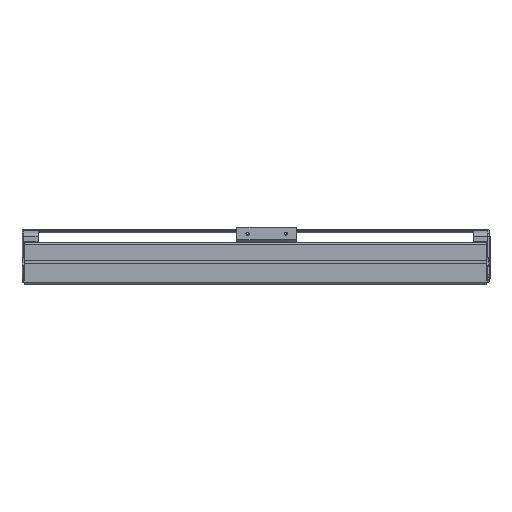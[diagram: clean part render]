
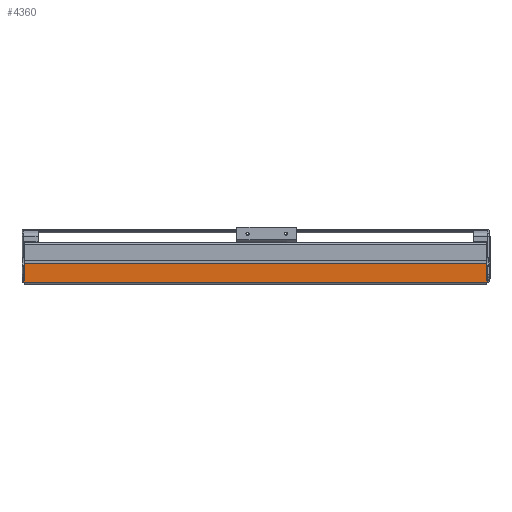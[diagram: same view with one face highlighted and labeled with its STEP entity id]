
A CAD part, top view. The second image highlights one B-rep face of the part: STEP entity #4360.
In plain terms, the highlighted planar face has unit normal (0, 0, 1).
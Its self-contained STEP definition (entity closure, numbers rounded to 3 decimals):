
#993=DIRECTION('',(-1.,0.,0.));
#994=VECTOR('',#993,603.);
#995=CARTESIAN_POINT('',(603.,27.9,39.));
#996=LINE('',#995,#994);
#1005=DIRECTION('',(0.,1.,0.));
#1006=VECTOR('',#1005,24.4);
#1007=CARTESIAN_POINT('',(603.,3.5,39.));
#1008=LINE('',#1007,#1006);
#1009=DIRECTION('',(0.,-1.,0.));
#1010=VECTOR('',#1009,24.4);
#1011=CARTESIAN_POINT('',(0.,27.9,39.));
#1012=LINE('',#1011,#1010);
#1017=DIRECTION('',(1.,0.,0.));
#1018=VECTOR('',#1017,603.);
#1019=CARTESIAN_POINT('',(0.,3.5,39.));
#1020=LINE('',#1019,#1018);
#2515=CARTESIAN_POINT('',(0.,3.5,39.));
#2516=VERTEX_POINT('',#2515);
#2517=CARTESIAN_POINT('',(0.,27.9,39.));
#2518=VERTEX_POINT('',#2517);
#2888=CARTESIAN_POINT('',(603.,3.5,39.));
#2889=VERTEX_POINT('',#2888);
#2972=CARTESIAN_POINT('',(603.,27.9,39.));
#2973=VERTEX_POINT('',#2972);
#4348=CARTESIAN_POINT('',(301.5,15.7,39.));
#4349=DIRECTION('',(0.,0.,1.));
#4350=DIRECTION('',(0.,-1.,0.));
#4351=AXIS2_PLACEMENT_3D('',#4348,#4349,#4350);
#4352=PLANE('',#4351);
#4353=ORIENTED_EDGE('',*,*,#3268,.F.);
#4355=ORIENTED_EDGE('',*,*,#4354,.F.);
#4356=ORIENTED_EDGE('',*,*,#3651,.F.);
#4357=ORIENTED_EDGE('',*,*,#4341,.F.);
#4358=EDGE_LOOP('',(#4353,#4355,#4356,#4357));
#4359=FACE_OUTER_BOUND('',#4358,.F.);
#4360=ADVANCED_FACE('',(#4359),#4352,.T.);
#3268=EDGE_CURVE('',#2889,#2973,#1008,.T.);
#3651=EDGE_CURVE('',#2518,#2516,#1012,.T.);
#4341=EDGE_CURVE('',#2973,#2518,#996,.T.);
#4354=EDGE_CURVE('',#2516,#2889,#1020,.T.);
